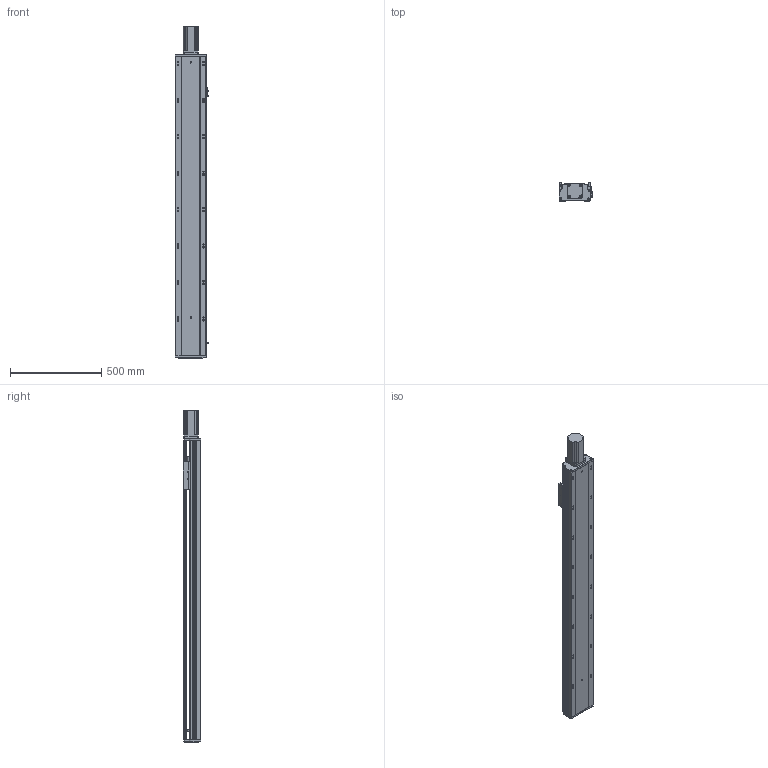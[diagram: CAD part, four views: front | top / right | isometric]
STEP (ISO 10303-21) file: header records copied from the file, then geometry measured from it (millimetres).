
FILE_DESCRIPTION (( 'STEP AP203' ), '1' );
FILE_NAME ('RY170-L2510-1200-MK.SLDASM_1300.step', '2021-02-20T05:12:10', ( '盈信电脑' ), ( '东莞市道滘镇水果街19号' ), 'SwSTEP 2.0', 'SolidWorks 2012', '' );
FILE_SCHEMA (( 'CONFIG_CONTROL_DESIGN' ));
Products named in the file (12): RY170-L2510-1200-MK.SLDASM_1300; 750W萇儂梓袧蛌諉啣; 侂狟750W萇儂ㄗ80遺ㄘ; RY170ヶ醱裔啣; RY170外置感应片(200共用）; 滅袉蝶18-28; 滅袉蝶18-15; RY170綴裔啣; RY170臏賑輸25佪裝蹟譫; 覜茼ん672; RY170-1200倰第裔啣-MK_1300; RY170-1200倰第菁釱-MK_1300
Assembly tree (13 placements, depth 2):
  RY170-L2510-1200-MK.SLDASM_1300
    RY170-1200倰第菁釱-MK_1300
    RY170-1200倰第裔啣-MK_1300
    RY170臏賑輸25佪裝蹟譫
    RY170綴裔啣
    覜茼ん672  x3
    RY170外置感应片(200共用）
    RY170ヶ醱裔啣
    滅袉蝶18-28
    滅袉蝶18-15
    750W萇儂梓袧蛌諉啣
    侂狟750W萇儂ㄗ80遺ㄘ
Bounding box: 183.7 x 97 x 1821 mm (x, y, z)
Volume: 8507980.8 mm3; surface area: 2699575.2 mm2
Topology: 13 solids, 13 shells, 1678 faces, 4915 edges, 3116 vertices
Faces by surface type: cylinder 768, plane 711, cone 195, bspline 4
Entity records: 53246 total; most frequent: CARTESIAN_POINT 12104, ORIENTED_EDGE 8534, DIRECTION 8210, EDGE_CURVE 4267, AXIS2_PLACEMENT_3D 2902, VERTEX_POINT 2796, LINE 2406, VECTOR 2406
